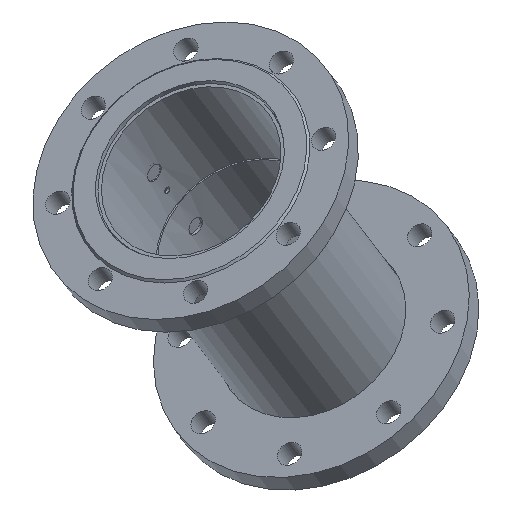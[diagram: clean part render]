
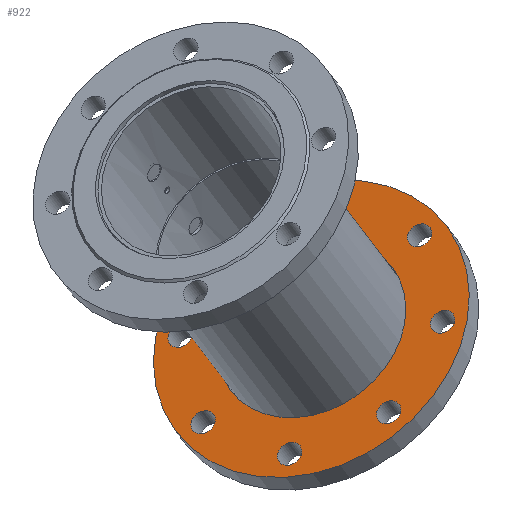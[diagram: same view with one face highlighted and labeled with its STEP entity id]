
A CAD part, isometric view. The second image highlights one B-rep face of the part: STEP entity #922.
In plain terms, the highlighted planar face has unit normal (-0.522, 0, 0.853) as drawn and (0, 0, -1) by its records, which use the part's own axes.
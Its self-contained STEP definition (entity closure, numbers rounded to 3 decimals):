
#922 = ADVANCED_FACE( '', ( #1850, #1851, #1852, #1853, #1854, #1855, #1856, #1857, #1858, #1859 ), #1860, .T. );
#1850 = FACE_BOUND( '', #5736, .T. );
#1851 = FACE_BOUND( '', #5737, .T. );
#1852 = FACE_BOUND( '', #5738, .T. );
#1853 = FACE_BOUND( '', #5739, .T. );
#1854 = FACE_BOUND( '', #5740, .T. );
#1855 = FACE_BOUND( '', #5741, .T. );
#1856 = FACE_BOUND( '', #5742, .T. );
#1857 = FACE_BOUND( '', #5743, .T. );
#1858 = FACE_BOUND( '', #5744, .T. );
#1859 = FACE_OUTER_BOUND( '', #5745, .T. );
#1860 = PLANE( '', #5746 );
#5736 = EDGE_LOOP( '', ( #7779 ) );
#5737 = EDGE_LOOP( '', ( #7780 ) );
#5738 = EDGE_LOOP( '', ( #7781 ) );
#5739 = EDGE_LOOP( '', ( #7782 ) );
#5740 = EDGE_LOOP( '', ( #7783 ) );
#5741 = EDGE_LOOP( '', ( #7784 ) );
#5742 = EDGE_LOOP( '', ( #7785 ) );
#5743 = EDGE_LOOP( '', ( #7786 ) );
#5744 = EDGE_LOOP( '', ( #7787 ) );
#5745 = EDGE_LOOP( '', ( #7788 ) );
#5746 = AXIS2_PLACEMENT_3D( '', #7789, #7790, #7791 );
#7779 = ORIENTED_EDGE( '', *, *, #8531, .F. );
#7780 = ORIENTED_EDGE( '', *, *, #8393, .F. );
#7781 = ORIENTED_EDGE( '', *, *, #8597, .F. );
#7782 = ORIENTED_EDGE( '', *, *, #8748, .F. );
#7783 = ORIENTED_EDGE( '', *, *, #8348, .F. );
#7784 = ORIENTED_EDGE( '', *, *, #8741, .F. );
#7785 = ORIENTED_EDGE( '', *, *, #8315, .F. );
#7786 = ORIENTED_EDGE( '', *, *, #8681, .F. );
#7787 = ORIENTED_EDGE( '', *, *, #8217, .T. );
#7788 = ORIENTED_EDGE( '', *, *, #8599, .F. );
#7789 = CARTESIAN_POINT( '', ( 85.25, 0., -8.141 ) );
#7790 = DIRECTION( '', ( 0., 0., -1. ) );
#7791 = DIRECTION( '', ( -1., 0., 0. ) );
#8217 = EDGE_CURVE( '', #9191, #9191, #9192, .T. );
#8315 = EDGE_CURVE( '', #9347, #9347, #9348, .T. );
#8348 = EDGE_CURVE( '', #9400, #9400, #9401, .T. );
#8393 = EDGE_CURVE( '', #9471, #9471, #9472, .T. );
#8531 = EDGE_CURVE( '', #9661, #9661, #9662, .T. );
#8597 = EDGE_CURVE( '', #9746, #9746, #9747, .T. );
#8599 = EDGE_CURVE( '', #9749, #9749, #9750, .T. );
#8681 = EDGE_CURVE( '', #9843, #9843, #9844, .T. );
#8741 = EDGE_CURVE( '', #9910, #9910, #9911, .T. );
#8748 = EDGE_CURVE( '', #9919, #9919, #9920, .T. );
#9191 = VERTEX_POINT( '', #10858 );
#9192 = CIRCLE( '', #10859, 85.25 );
#9347 = VERTEX_POINT( '', #11342 );
#9348 = CIRCLE( '', #11343, 11. );
#9400 = VERTEX_POINT( '', #11508 );
#9401 = CIRCLE( '', #11509, 11. );
#9471 = VERTEX_POINT( '', #11610 );
#9472 = CIRCLE( '', #11611, 11. );
#9661 = VERTEX_POINT( '', #11957 );
#9662 = CIRCLE( '', #11958, 11. );
#9746 = VERTEX_POINT( '', #12193 );
#9747 = CIRCLE( '', #12194, 11. );
#9749 = VERTEX_POINT( '', #12196 );
#9750 = CIRCLE( '', #12197, 142.5 );
#9843 = VERTEX_POINT( '', #12459 );
#9844 = CIRCLE( '', #12460, 11. );
#9910 = VERTEX_POINT( '', #12602 );
#9911 = CIRCLE( '', #12603, 11. );
#9919 = VERTEX_POINT( '', #12613 );
#9920 = CIRCLE( '', #12614, 11. );
#10858 = CARTESIAN_POINT( '', ( 85.25, 0., -8.141 ) );
#10859 = AXIS2_PLACEMENT_3D( '', #13019, #13020, #13021 );
#11342 = CARTESIAN_POINT( '', ( -11., 120., -8.141 ) );
#11343 = AXIS2_PLACEMENT_3D( '', #13154, #13155, #13156 );
#11508 = CARTESIAN_POINT( '', ( 109., 0., -8.141 ) );
#11509 = AXIS2_PLACEMENT_3D( '', #13195, #13196, #13197 );
#11610 = CARTESIAN_POINT( '', ( -95.853, -84.853, -8.141 ) );
#11611 = AXIS2_PLACEMENT_3D( '', #13282, #13283, #13284 );
#11957 = CARTESIAN_POINT( '', ( -131., 0., -8.141 ) );
#11958 = AXIS2_PLACEMENT_3D( '', #13482, #13483, #13484 );
#12193 = CARTESIAN_POINT( '', ( -11., -120., -8.141 ) );
#12194 = AXIS2_PLACEMENT_3D( '', #13556, #13557, #13558 );
#12196 = CARTESIAN_POINT( '', ( 142.5, 0., -8.141 ) );
#12197 = AXIS2_PLACEMENT_3D( '', #13559, #13560, #13561 );
#12459 = CARTESIAN_POINT( '', ( -95.853, 84.853, -8.141 ) );
#12460 = AXIS2_PLACEMENT_3D( '', #13645, #13646, #13647 );
#12602 = CARTESIAN_POINT( '', ( 73.853, 84.853, -8.141 ) );
#12603 = AXIS2_PLACEMENT_3D( '', #13692, #13693, #13694 );
#12613 = CARTESIAN_POINT( '', ( 73.853, -84.853, -8.141 ) );
#12614 = AXIS2_PLACEMENT_3D( '', #13697, #13698, #13699 );
#13019 = CARTESIAN_POINT( '', ( 0., 0., -8.141 ) );
#13020 = DIRECTION( '', ( 0., 0., 1. ) );
#13021 = DIRECTION( '', ( 1., 0., 0. ) );
#13154 = CARTESIAN_POINT( '', ( 0., 120., -8.141 ) );
#13155 = DIRECTION( '', ( 0., 0., -1. ) );
#13156 = DIRECTION( '', ( -1., 0., 0. ) );
#13195 = CARTESIAN_POINT( '', ( 120., 0., -8.141 ) );
#13196 = DIRECTION( '', ( 0., 0., -1. ) );
#13197 = DIRECTION( '', ( -1., 0., 0. ) );
#13282 = CARTESIAN_POINT( '', ( -84.853, -84.853, -8.141 ) );
#13283 = DIRECTION( '', ( 0., 0., -1. ) );
#13284 = DIRECTION( '', ( -1., 0., 0. ) );
#13482 = CARTESIAN_POINT( '', ( -120., 0., -8.141 ) );
#13483 = DIRECTION( '', ( 0., 0., -1. ) );
#13484 = DIRECTION( '', ( -1., 0., 0. ) );
#13556 = CARTESIAN_POINT( '', ( 0., -120., -8.141 ) );
#13557 = DIRECTION( '', ( 0., 0., -1. ) );
#13558 = DIRECTION( '', ( -1., 0., 0. ) );
#13559 = CARTESIAN_POINT( '', ( 0., 0., -8.141 ) );
#13560 = DIRECTION( '', ( 0., 0., 1. ) );
#13561 = DIRECTION( '', ( 1., 0., 0. ) );
#13645 = CARTESIAN_POINT( '', ( -84.853, 84.853, -8.141 ) );
#13646 = DIRECTION( '', ( 0., 0., -1. ) );
#13647 = DIRECTION( '', ( -1., 0., 0. ) );
#13692 = CARTESIAN_POINT( '', ( 84.853, 84.853, -8.141 ) );
#13693 = DIRECTION( '', ( 0., 0., -1. ) );
#13694 = DIRECTION( '', ( -1., 0., 0. ) );
#13697 = CARTESIAN_POINT( '', ( 84.853, -84.853, -8.141 ) );
#13698 = DIRECTION( '', ( 0., 0., -1. ) );
#13699 = DIRECTION( '', ( -1., 0., 0. ) );
